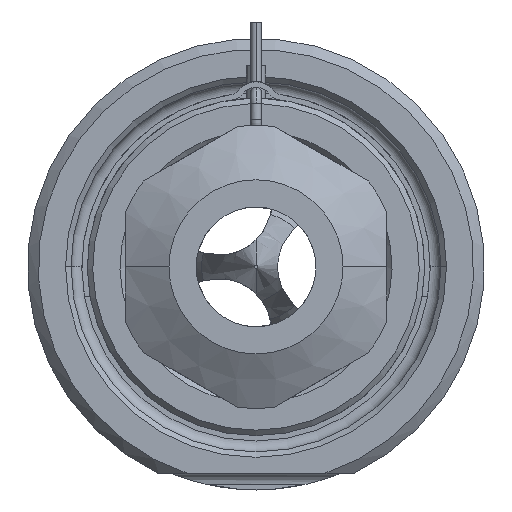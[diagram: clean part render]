
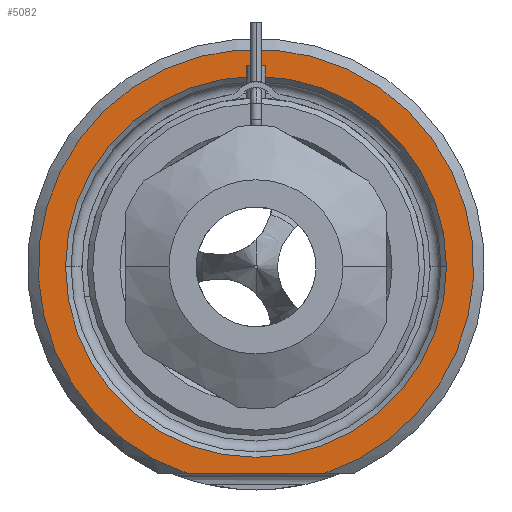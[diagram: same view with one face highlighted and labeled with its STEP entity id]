
A CAD part, front view. The second image highlights one B-rep face of the part: STEP entity #5082.
In plain terms, the highlighted planar face has unit normal (0, -1, 0).
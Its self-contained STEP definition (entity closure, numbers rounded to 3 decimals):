
#1289=CARTESIAN_POINT('',(0.,0.,0.));
#1290=DIRECTION('',(0.,-1.,0.));
#1291=DIRECTION('',(0.312,0.,-0.95));
#1292=AXIS2_PLACEMENT_3D('',#1289,#1290,#1291);
#1313=DIRECTION('',(1.,0.,0.));
#1314=VECTOR('',#1313,12.49);
#1315=CARTESIAN_POINT('',(-6.245,0.,-19.));
#1316=LINE('',#1315,#1314);
#1317=CARTESIAN_POINT('',(0.,0.,0.));
#1318=DIRECTION('',(0.,1.,0.));
#1319=DIRECTION('',(-1.,0.,0.));
#1320=AXIS2_PLACEMENT_3D('',#1317,#1318,#1319);
#1322=CARTESIAN_POINT('',(0.,0.,0.));
#1323=DIRECTION('',(0.,1.,0.));
#1324=DIRECTION('',(1.,0.,0.));
#1325=AXIS2_PLACEMENT_3D('',#1322,#1323,#1324);
#3341=CARTESIAN_POINT('',(-17.5,0.,0.));
#3342=CARTESIAN_POINT('',(17.5,0.,0.));
#3343=VERTEX_POINT('',#3341);
#3344=VERTEX_POINT('',#3342);
#3385=CARTESIAN_POINT('',(-6.245,0.,-19.));
#3386=CARTESIAN_POINT('',(6.245,0.,-19.));
#3387=VERTEX_POINT('',#3385);
#3388=VERTEX_POINT('',#3386);
#5067=CARTESIAN_POINT('',(0.,0.,0.));
#5068=DIRECTION('',(0.,-1.,0.));
#5069=DIRECTION('',(1.,0.,0.));
#5070=AXIS2_PLACEMENT_3D('',#5067,#5068,#5069);
#5071=PLANE('',#5070);
#5072=ORIENTED_EDGE('',*,*,#4999,.F.);
#5073=ORIENTED_EDGE('',*,*,#5059,.F.);
#5074=EDGE_LOOP('',(#5072,#5073));
#5075=FACE_OUTER_BOUND('',#5074,.F.);
#5077=ORIENTED_EDGE('',*,*,#5076,.F.);
#5079=ORIENTED_EDGE('',*,*,#5078,.F.);
#5080=EDGE_LOOP('',(#5077,#5079));
#5081=FACE_BOUND('',#5080,.F.);
#5082=ADVANCED_FACE('',(#5075,#5081),#5071,.T.);
#1293=CIRCLE('',#1292,20.);
#1321=CIRCLE('',#1320,17.5);
#1326=CIRCLE('',#1325,17.5);
#4999=EDGE_CURVE('',#3387,#3388,#1316,.T.);
#5059=EDGE_CURVE('',#3388,#3387,#1293,.T.);
#5076=EDGE_CURVE('',#3343,#3344,#1321,.T.);
#5078=EDGE_CURVE('',#3344,#3343,#1326,.T.);
